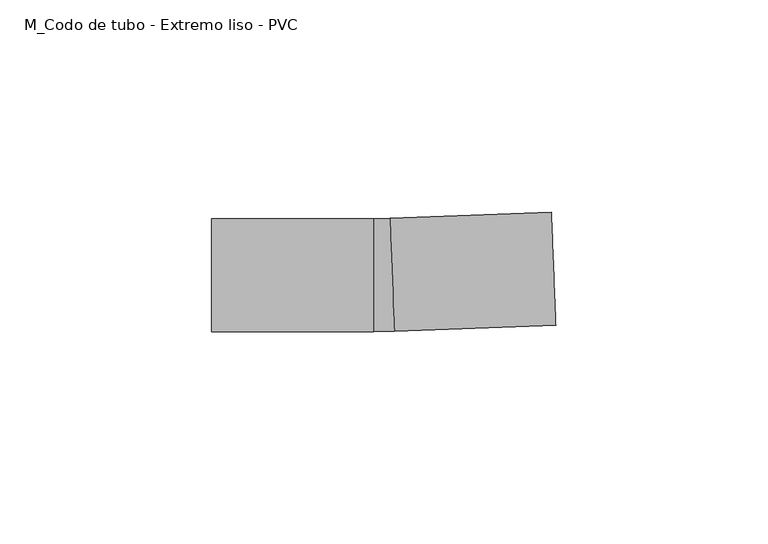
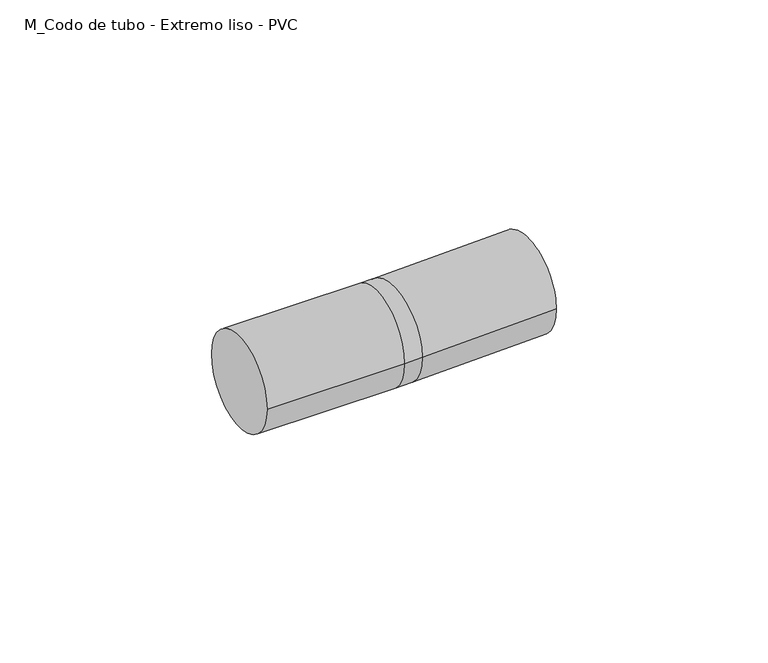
"""IFC4 building model written with IfcOpenShell, lengths in millimetres: cable carrier fitting geometry, M_Codo de tubo - Extremo liso - PVC : CODO ILUMINACION."""

import ifcopenshell
import ifcopenshell.guid

model = None  # the IFC model being written
_history = None  # IfcOwnerHistory: only IFC2X3 demands one
_inside = {}  # id of a spatial element -> (the spatial element, [elements in it])
_under = {}  # id of a project, library or spatial element -> (it, [spatial elements below it])
_declared = {}  # id of a project -> (the project, [libraries it declares])
_typed = {}  # id of a type object -> (the type object, [elements of that type])
_made_of = {}  # id of a material, layer set ... -> (it, [elements and type objects made of it])


def new_model(schema):
    """Start an empty IFC model of exactly this schema.

    Asked for "IFC4X3", IfcOpenShell would pick the latest addendum, in which some entities
    have other attributes; the version numbers below select the first issue.
    IFC2X3 requires an IfcOwnerHistory on every rooted entity: one is made here for all.
    """
    global model, _history
    if schema == "IFC4X3":
        model = ifcopenshell.file(schema_version=(4, 3, 0, 0))
    else:
        model = ifcopenshell.file(schema=schema)
    _inside.clear()
    _under.clear()
    _declared.clear()
    _typed.clear()
    _made_of.clear()
    _history = None
    if model.schema == "IFC2X3":
        org = make("IfcOrganization", Name="unknown")
        user = make(
            "IfcPersonAndOrganization",
            ThePerson=make("IfcPerson", FamilyName="unknown"),
            TheOrganization=org,
        )
        app = make(
            "IfcApplication",
            ApplicationDeveloper=org,
            Version="unknown",
            ApplicationFullName="unknown",
            ApplicationIdentifier="unknown",
        )
        _history = make(
            "IfcOwnerHistory",
            OwningUser=user,
            OwningApplication=app,
            ChangeAction="ADDED",
            CreationDate=0,
        )
    return model


def make(cls, **values):
    """One entity of the class cls with the attributes given. An attribute that is None is left unset."""
    return model.create_entity(
        cls, **{name: value for name, value in values.items() if value is not None}
    )


def rooted(cls, **values):
    """An entity with a GlobalId (a new one), such as an element, a storey or a relation."""
    return make(cls, GlobalId=ifcopenshell.guid.new(), OwnerHistory=_history, **values)


def si_unit(unit_type, name, prefix=None):
    """IfcSIUnit, for example si_unit("LENGTHUNIT", "METRE", prefix="MILLI")."""
    return make("IfcSIUnit", UnitType=unit_type, Prefix=prefix, Name=name)


def assignment(units):
    """IfcUnitAssignment: the units of a project."""
    return None if units is None else make("IfcUnitAssignment", Units=units)


def point(xyz):
    """IfcCartesianPoint."""
    return None if xyz is None else make("IfcCartesianPoint", Coordinates=xyz)


def direction(xyz):
    """IfcDirection."""
    return None if xyz is None else make("IfcDirection", DirectionRatios=xyz)


def frame(location, z_axis=None, x_axis=None):
    """IfcAxis2Placement3D, a coordinate frame: its origin and axes. An axis left out is left unset."""
    return make(
        "IfcAxis2Placement3D",
        Location=point(location),
        Axis=direction(z_axis),
        RefDirection=direction(x_axis),
    )


def origin():
    """The frame at (0, 0, 0) with its axes left unset."""
    return frame((0.0, 0.0, 0.0))


def place(relative_to, where):
    """IfcLocalPlacement: puts the frame where relative to a parent placement (None: the world)."""
    return make(
        "IfcLocalPlacement", PlacementRelTo=relative_to, RelativePlacement=where
    )


def context(
    kind, dimensions, precision=None, world=None, true_north=None, identifier=None
):
    """IfcGeometricRepresentationContext, for example the 3D "Model" context."""
    return make(
        "IfcGeometricRepresentationContext",
        ContextIdentifier=identifier,
        ContextType=kind,
        CoordinateSpaceDimension=dimensions,
        Precision=precision,
        WorldCoordinateSystem=world,
        TrueNorth=true_north,
    )


def project(units=None, contexts=None):
    """IfcProject with its units and contexts."""
    return rooted(
        "IfcProject",
        Name="project",
        RepresentationContexts=contexts,
        UnitsInContext=assignment(units),
    )


def spatial(cls, under=None, at=None, **own):
    """A site, building, storey or space (cls), placed at a placement, below another one or the project."""
    s = rooted(cls, ObjectPlacement=at, **own)
    if under is not None:
        _under.setdefault(under.id(), (under, []))[1].append(s)
    return s


def circle_curve(where, radius):
    """IfcCircle in the frame where."""
    return make("IfcCircle", Position=where, Radius=radius)


def ellipse_curve(where, semi_axis1, semi_axis2):
    """IfcEllipse in the frame where."""
    return make(
        "IfcEllipse", Position=where, SemiAxis1=semi_axis1, SemiAxis2=semi_axis2
    )


def trimmed(basis, trim1, trim2, sense, master):
    """IfcTrimmedCurve: the piece of a basis curve between two trims."""
    return make(
        "IfcTrimmedCurve",
        BasisCurve=basis,
        Trim1=trim1,
        Trim2=trim2,
        SenseAgreement=sense,
        MasterRepresentation=master,
    )


def shape(context_of_items, identifier, shape_type, items):
    """IfcShapeRepresentation: the items that make up one representation, for example the "Body"."""
    return make(
        "IfcShapeRepresentation",
        ContextOfItems=context_of_items,
        RepresentationIdentifier=identifier,
        RepresentationType=shape_type,
        Items=items,
    )


def source(mapping_origin, context_of_items, identifier, shape_type, items):
    """IfcRepresentationMap: a shape defined once, which mapped items show again and again."""
    return make(
        "IfcRepresentationMap",
        MappingOrigin=mapping_origin,
        MappedRepresentation=shape(context_of_items, identifier, shape_type, items),
    )


def transform(
    local_origin,
    x_axis=None,
    y_axis=None,
    z_axis=None,
    scale=None,
    scale2=None,
    scale3=None,
    uniform=True,
):
    """IfcCartesianTransformationOperator3D, or its non-uniform kind. x_axis, y_axis, z_axis: its Axis1, 2, 3."""
    if uniform:
        return make(
            "IfcCartesianTransformationOperator3D",
            Axis1=direction(x_axis),
            Axis2=direction(y_axis),
            LocalOrigin=point(local_origin),
            Scale=scale,
            Axis3=direction(z_axis),
        )
    return make(
        "IfcCartesianTransformationOperator3DnonUniform",
        Axis1=direction(x_axis),
        Axis2=direction(y_axis),
        LocalOrigin=point(local_origin),
        Scale=scale,
        Axis3=direction(z_axis),
        Scale2=scale2,
        Scale3=scale3,
    )


def mapped(mapping_source, mapping_target):
    """IfcMappedItem: shows the shape of a source again, moved by a transform."""
    return make(
        "IfcMappedItem", MappingSource=mapping_source, MappingTarget=mapping_target
    )


def made_of(thing, what):
    """Note that an element or type object is made of a material, layer set ...; save() writes the relation."""
    if what is not None:
        _made_of.setdefault(what.id(), (what, []))[1].append(thing)
    return thing


def element(
    cls,
    number,
    at=None,
    inside=None,
    cuts=None,
    type_object=None,
    material=None,
    context=None,
    identifier="Body",
    shape_type=None,
    held_by="IfcProductDefinitionShape",
    body=None,
    shapes=None,
    **own,
):
    """One element of the class cls, such as IfcWall. Its Tag is "e" and its number.

    at: its placement. inside: the storey or other place that contains it. cuts: it is an
    opening in that element (IfcRelVoidsElement). A single representation is given by context,
    identifier, shape_type and body (its items); several are given by shapes. held_by: the class
    of the entity that holds the representations. save() writes the other relations.
    """
    e = rooted(cls, Tag="e%d" % number, ObjectPlacement=at, **own)
    if body is not None:
        shapes = [shape(context, identifier, shape_type, body)]
    if shapes is not None:
        e.Representation = make(held_by, Representations=shapes)
    if inside is not None:
        _inside.setdefault(inside.id(), (inside, []))[1].append(e)
    if cuts is not None:
        rooted(
            "IfcRelVoidsElement", RelatingBuildingElement=cuts, RelatedOpeningElement=e
        )
    if type_object is not None:
        _typed.setdefault(type_object.id(), (type_object, []))[1].append(e)
    return made_of(e, material)


def aggregate(whole, parts):
    """IfcRelAggregates: a whole, such as a stair, and the parts it consists of."""
    return rooted("IfcRelAggregates", RelatingObject=whole, RelatedObjects=parts)


def save(model, path):
    """Write the relations noted so far, then the file.

    IfcRelAggregates (storeys below a building ...), IfcRelContainedInSpatialStructure (elements
    in a storey), IfcRelDefinesByType, IfcRelAssociatesMaterial and IfcRelDeclares: one each for
    every whole, place, type object, material and project.
    """
    for whole, parts in _under.values():
        aggregate(whole, parts)
    for where, things in _inside.values():
        rooted(
            "IfcRelContainedInSpatialStructure",
            RelatedElements=things,
            RelatingStructure=where,
        )
    for kind, things in _typed.values():
        rooted("IfcRelDefinesByType", RelatedObjects=things, RelatingType=kind)
    for what, things in _made_of.values():
        rooted("IfcRelAssociatesMaterial", RelatedObjects=things, RelatingMaterial=what)
    for by, libraries in _declared.values():
        rooted("IfcRelDeclares", RelatingContext=by, RelatedDefinitions=libraries)
    model.write(path)


def plane_surface(at):
    """IfcPlane: the flat surface through the origin of the frame at, square to its z axis."""
    return make("IfcPlane", Position=at)


def cylinder_surface(at, radius):
    """IfcCylindricalSurface: all points at the distance radius from the z axis of the frame at."""
    return make("IfcCylindricalSurface", Position=at, Radius=radius)


def revolved_surface(curve, axis_point, axis_direction):
    """IfcSurfaceOfRevolution: the curve turned about the line through axis_point along axis_direction."""
    return make(
        "IfcSurfaceOfRevolution",
        SweptCurve=make("IfcArbitraryOpenProfileDef", ProfileType="CURVE", Curve=curve),
        AxisPosition=make("IfcAxis1Placement", Location=point(axis_point), Axis=direction(axis_direction)),
    )


def advanced_brep(points, edges, surfaces, faces):
    """IfcAdvancedBrep: a solid bounded by faces that lie on surfaces and meet in shared edges.

    An edge is (start, end): straight between two places in points (the first is 0);
    or (start, end, curve); or (start, end, curve, False) where it runs against its curve.
    A face is (place in surfaces, loops), or (place, loops, False) where it looks against
    its surface's normal. A loop lists edges by number (the first is 1), with a minus sign
    where the edge is run from its end to its start. The first loop is the outer one.
    """
    corners = [point(p) for p in points]
    vertices = [make("IfcVertexPoint", VertexGeometry=c) for c in corners]
    made = []
    for start, end, *more in edges:
        made.append(
            make(
                "IfcEdgeCurve",
                EdgeStart=vertices[start],
                EdgeEnd=vertices[end],
                EdgeGeometry=more[0] if more else make("IfcPolyline", Points=[corners[start], corners[end]]),
                SameSense=more[1] if len(more) > 1 else True,
            )
        )
    hull = []
    for where, loops, *sense in faces:
        bounds = []
        for j, loop in enumerate(loops):
            ring = [make("IfcOrientedEdge", EdgeElement=made[abs(k) - 1], Orientation=k > 0) for k in loop]
            bounds.append(
                make(
                    "IfcFaceOuterBound" if j == 0 else "IfcFaceBound",
                    Bound=make("IfcEdgeLoop", EdgeList=ring),
                    Orientation=True,
                )
            )
        hull.append(make("IfcAdvancedFace", Bounds=bounds, FaceSurface=surfaces[where], SameSense=sense[0] if sense else True))
    return make("IfcAdvancedBrep", Outer=make("IfcClosedShell", CfsFaces=hull))


def m_codo_de_tubo_extremo_liso_pvc_0abab895(model_context):
    return source(origin(), model_context, "Body", "AdvancedBrep", [
        advanced_brep(
        [(-40.3233563, -13.335, 0.0), (-40.3233563, 13.335, 0.0), (-2.2233563, -13.335, 0.0), (-2.2233563, 13.335, 0.0), (1.7030875, 13.4113769, 0.0), (2.7402614, -13.238448, 0.0), (40.8114399, -11.7567711, 0.0), (39.774266, 14.8930539, 0.0)],
        [
            (0, 1, circle_curve(frame((-40.3233563, 0.0, 0.0), z_axis=(-1.0, 0.0, 0.0), x_axis=(0.0, 1.0, 0.0)), 13.335)),
            (1, 0, circle_curve(frame((-40.3233563, 0.0, 0.0), z_axis=(-1.0, 0.0, 0.0), x_axis=(0.0, 1.0, 0.0)), 13.335)),
            (0, 2),
            (2, 3, circle_curve(frame((-2.2233563, 0.0, 0.0), z_axis=(-1.0, 0.0, 0.0), x_axis=(0.0, 1.0, 0.0)), 13.335)),
            (3, 1),
            (3, 2, circle_curve(frame((-2.2233563, 0.0, 0.0), z_axis=(-1.0, 0.0, 0.0), x_axis=(0.0, 1.0, 0.0)), 13.335)),
            (4, 3, circle_curve(frame((-2.2233563, 114.3, 0.0), z_axis=(0.0, 0.0, -1.0), x_axis=(0.0, -1.0, 0.0)), 100.965)),
            (2, 5, circle_curve(frame((-2.2233563, 114.3, 0.0), z_axis=(0.0, 0.0, 1.0), x_axis=(0.0, -1.0, 0.0)), 127.635)),
            (5, 4, circle_curve(frame((2.2216744, 0.0864645, 0.0), z_axis=(-0.9992435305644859, -0.038889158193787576, 0.0), x_axis=(-0.038889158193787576, 0.9992435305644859, 0.0)), 13.335)),
            (4, 5, circle_curve(frame((2.2216744, 0.0864645, 0.0), z_axis=(-0.9992435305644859, -0.03888915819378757, 0.0), x_axis=(-0.03888915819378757, 0.9992435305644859, 0.0)), 13.335)),
            (6, 7, circle_curve(frame((40.292853, 1.5681414, 0.0), z_axis=(0.9992435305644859, 0.03888915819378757, 0.0), x_axis=(-0.03888915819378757, 0.9992435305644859, 0.0)), 13.335)),
            (7, 6, circle_curve(frame((40.292853, 1.5681414, 0.0), z_axis=(0.9992435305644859, 0.03888915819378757, 0.0), x_axis=(-0.03888915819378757, 0.9992435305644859, 0.0)), 13.335)),
            (5, 6),
            (7, 4),
        ],
        [
            plane_surface(frame((-40.3233563, 0.0, 0.0), z_axis=(-1.0, 0.0, 0.0), x_axis=(0.0, 0.0, 1.0))),
            cylinder_surface(frame((-40.3233563, 0.0, 0.0), z_axis=(-1.0, 0.0, 0.0), x_axis=(0.0, 1.0, 0.0)), 13.335),
            revolved_surface(trimmed(ellipse_curve(frame((-2.2233563, 0.0, 0.0), z_axis=(-1.0, 0.0, 0.0), x_axis=(0.0, 1.0, 0.0)), 13.335, 13.335), [point((-2.2233563, -13.335, 0.0))], [point((-2.2233563, 13.335, 0.0))], True, "CARTESIAN"), (-2.2233563, 114.3, 0.0), (0.0, 0.0, 1.0)),
            revolved_surface(trimmed(ellipse_curve(frame((-2.2233563, 0.0, 0.0), z_axis=(-1.0, 0.0, 0.0), x_axis=(0.0, 1.0, 0.0)), 13.335, 13.335), [point((-2.2233563, 13.335, 0.0))], [point((-2.2233563, -13.335, 0.0))], True, "CARTESIAN"), (-2.2233563, 114.3, 0.0), (0.0, 0.0, 1.0)),
            plane_surface(frame((40.292853, 1.5681414, 0.0), z_axis=(0.9992435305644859, 0.03888915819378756, 0.0), x_axis=(0.0, 0.0, 1.0))),
            cylinder_surface(frame((2.2216744, 0.0864645, 0.0), z_axis=(-0.9992435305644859, -0.03888915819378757, 0.0), x_axis=(-0.03888915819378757, 0.9992435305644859, 0.0)), 13.335),
        ],
        [
            (0, [[1, 2]]),
            (1, [[-1, 3, 4, 5]]),
            (1, [[-2, -5, 6, -3]]),
            (2, [[7, -4, 8, 9]]),
            (3, [[-8, -6, -7, 10]]),
            (4, [[11, 12]]),
            (5, [[-9, 13, -12, 14]]),
            (5, [[-10, -14, -11, -13]]),
        ],
    ),
    ])


if __name__ == "__main__":
    model = new_model("IFC4")
    model_context = context("Model", 3, world=origin())
    ifc_project = project(units=[si_unit("LENGTHUNIT", "METRE", prefix="MILLI")], contexts=[model_context])
    site = spatial("IfcSite", under=ifc_project)
    building = spatial("IfcBuilding", under=site)
    placement = place(None, origin())
    m_codo_de_tubo_extremo_liso_pvc_shape = m_codo_de_tubo_extremo_liso_pvc_0abab895(model_context)
    element("IfcCableCarrierFitting", 1, ObjectType="M_Codo de tubo - Extremo liso - PVC : CODO ILUMINACION", at=placement, inside=building, context=model_context, shape_type="MappedRepresentation", body=[
        mapped(m_codo_de_tubo_extremo_liso_pvc_shape, transform((0.0, 0.0, 0.0), x_axis=(1.0, 0.0, 0.0), y_axis=(0.0, 1.0, 0.0), z_axis=(0.0, 0.0, 1.0))),
    ])
    save(model, "model.ifc")
